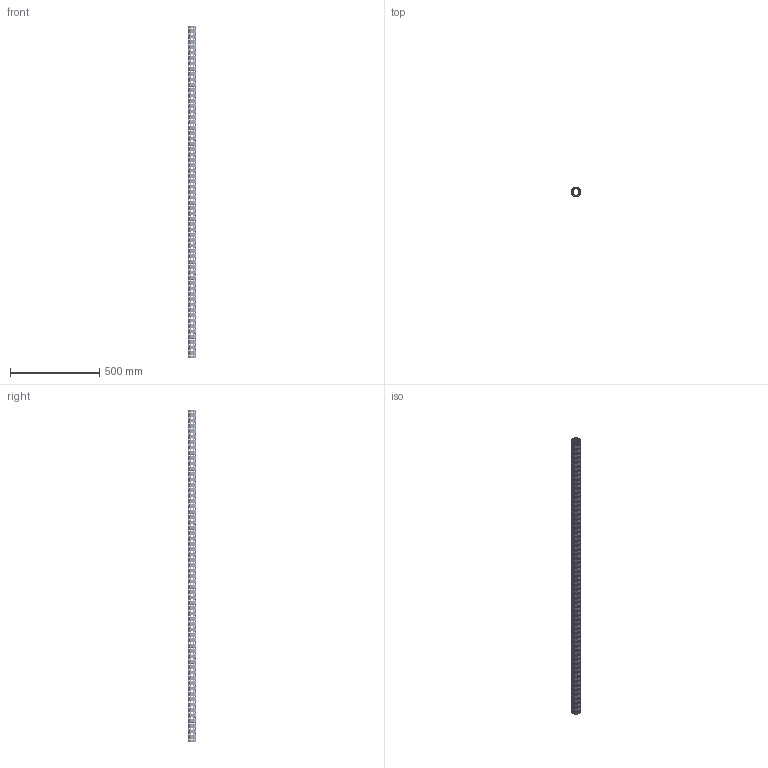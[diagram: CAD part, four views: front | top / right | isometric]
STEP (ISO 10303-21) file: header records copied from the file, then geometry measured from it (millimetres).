
FILE_DESCRIPTION(('CATIA V5 STEP Exchange'),'2;1');
FILE_NAME('U:\Room\唐宝山\EGT002\46-01-010291-01-EGT002-1858.stp','2021-08-24T01:41:03+00:00',('none'),('none'),'CATIA Version 5 Release 21 GA (IN-10)','CATIA V5 STEP AP203','none');
FILE_SCHEMA(('CONFIG_CONTROL_DESIGN'));
Products named in the file (1): 46-01-010291-01-EGT002-1858
Bounding box: 50 x 50 x 1858 mm (x, y, z)
Volume: 1323794.1 mm3; surface area: 638345.5 mm2
Topology: 1 solids, 1 shells, 2564 faces, 7066 edges, 4380 vertices
Faces by surface type: cone 1488, cylinder 1050, plane 26
Entity records: 104818 total; most frequent: CARTESIAN_POINT 42725, ORIENTED_EDGE 14132, DIRECTION 9984, EDGE_CURVE 7066, AXIS2_PLACEMENT_3D 4687, VERTEX_POINT 4380, EDGE_LOOP 3434, VECTOR 2734
